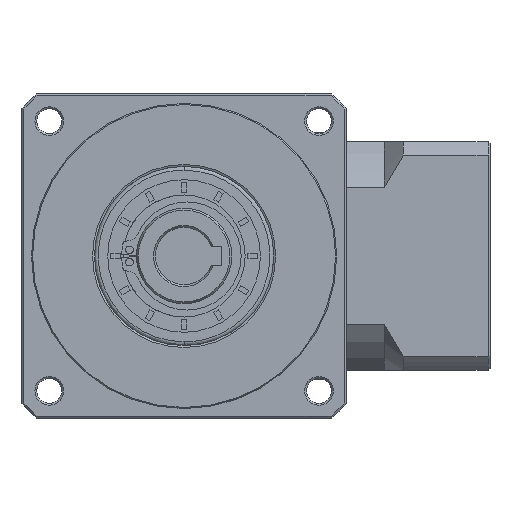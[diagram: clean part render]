
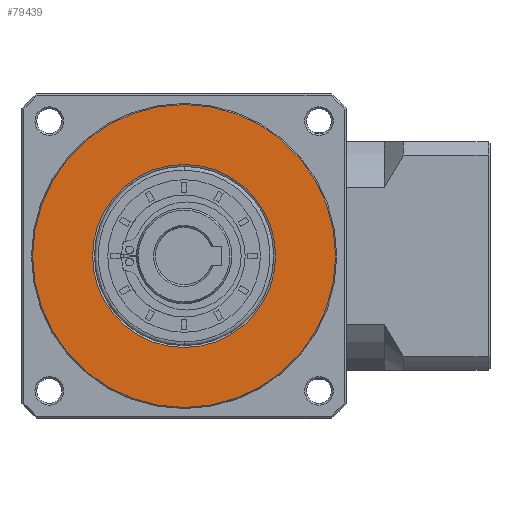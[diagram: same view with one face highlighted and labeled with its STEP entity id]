
A CAD part, left-side view. The second image highlights one B-rep face of the part: STEP entity #79439.
In plain terms, the highlighted planar face has unit normal (-1, 0, 0).
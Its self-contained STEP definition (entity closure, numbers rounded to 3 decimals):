
#6577 = EDGE_LOOP ( 'NONE', ( #157188, #38638 ) ) ;
#6967 = CIRCLE ( 'NONE', #96791, 24. ) ;
#8730 = AXIS2_PLACEMENT_3D ( 'NONE', #40522, #133588, #53863 ) ;
#8968 = CIRCLE ( 'NONE', #75596, 39.711 ) ;
#10889 = DIRECTION ( 'NONE',  ( 1., 0., 0. ) ) ;
#18833 = CARTESIAN_POINT ( 'NONE',  ( 23.917, 32.419, -40.952 ) ) ;
#25480 = CARTESIAN_POINT ( 'NONE',  ( 23.917, 32.419, -40.952 ) ) ;
#28059 = ORIENTED_EDGE ( 'NONE', *, *, #159578, .T. ) ;
#32192 = DIRECTION ( 'NONE',  ( 0., 0., -1. ) ) ;
#38638 = ORIENTED_EDGE ( 'NONE', *, *, #159717, .F. ) ;
#38774 = DIRECTION ( 'NONE',  ( 0., 0., -1. ) ) ;
#40322 = CARTESIAN_POINT ( 'NONE',  ( 23.917, -7.293, -40.952 ) ) ;
#40522 = CARTESIAN_POINT ( 'NONE',  ( 23.917, 32.419, -40.952 ) ) ;
#51289 = CARTESIAN_POINT ( 'NONE',  ( 23.917, 32.419, -40.952 ) ) ;
#53863 = DIRECTION ( 'NONE',  ( 0., 0., -1. ) ) ;
#55202 = FACE_BOUND ( 'NONE', #82772, .T. ) ;
#58170 = CIRCLE ( 'NONE', #155295, 39.711 ) ;
#64723 = DIRECTION ( 'NONE',  ( 0., 1., 0. ) ) ;
#73007 = ORIENTED_EDGE ( 'NONE', *, *, #96903, .T. ) ;
#73656 = CARTESIAN_POINT ( 'NONE',  ( 23.917, 32.419, -16.952 ) ) ;
#75596 = AXIS2_PLACEMENT_3D ( 'NONE', #51289, #144386, #64723 ) ;
#77648 = EDGE_CURVE ( 'NONE', #110247, #86836, #58170, .T. ) ;
#79439 = ADVANCED_FACE ( 'NONE', ( #126071, #55202 ), #105752, .T. ) ;
#82772 = EDGE_LOOP ( 'NONE', ( #73007, #28059 ) ) ;
#86836 = VERTEX_POINT ( 'NONE', #40322 ) ;
#90512 = CARTESIAN_POINT ( 'NONE',  ( 23.917, 32.419, -40.952 ) ) ;
#96791 = AXIS2_PLACEMENT_3D ( 'NONE', #18833, #111911, #32192 ) ;
#96903 = EDGE_CURVE ( 'NONE', #157962, #112708, #161706, .T. ) ;
#103869 = DIRECTION ( 'NONE',  ( 0., 1., 0. ) ) ;
#105752 = PLANE ( 'NONE',  #8730 ) ;
#110247 = VERTEX_POINT ( 'NONE', #140859 ) ;
#111911 = DIRECTION ( 'NONE',  ( 1., 0., 0. ) ) ;
#112708 = VERTEX_POINT ( 'NONE', #73656 ) ;
#118537 = DIRECTION ( 'NONE',  ( 1., 0., 0. ) ) ;
#126071 = FACE_OUTER_BOUND ( 'NONE', #6577, .T. ) ;
#133588 = DIRECTION ( 'NONE',  ( -1., 0., 0. ) ) ;
#136544 = AXIS2_PLACEMENT_3D ( 'NONE', #25480, #118537, #38774 ) ;
#140859 = CARTESIAN_POINT ( 'NONE',  ( 23.917, 72.13, -40.952 ) ) ;
#144386 = DIRECTION ( 'NONE',  ( 1., 0., 0. ) ) ;
#155295 = AXIS2_PLACEMENT_3D ( 'NONE', #90512, #10889, #103869 ) ;
#157188 = ORIENTED_EDGE ( 'NONE', *, *, #77648, .F. ) ;
#157962 = VERTEX_POINT ( 'NONE', #172336 ) ;
#159578 = EDGE_CURVE ( 'NONE', #112708, #157962, #6967, .T. ) ;
#159717 = EDGE_CURVE ( 'NONE', #86836, #110247, #8968, .T. ) ;
#161706 = CIRCLE ( 'NONE', #136544, 24. ) ;
#172336 = CARTESIAN_POINT ( 'NONE',  ( 23.917, 32.419, -64.952 ) ) ;
